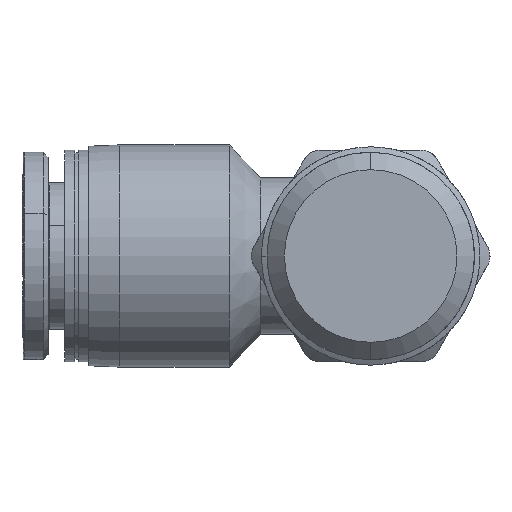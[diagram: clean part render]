
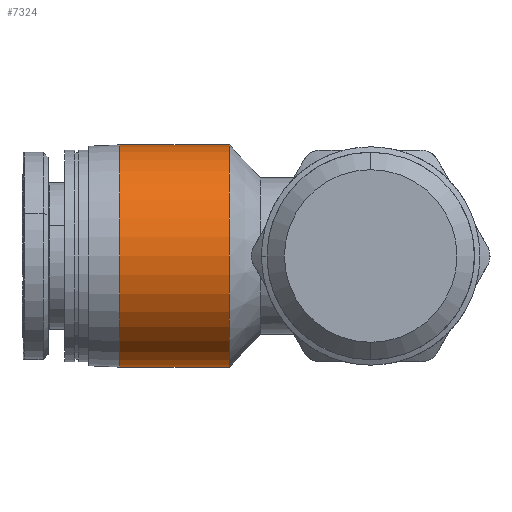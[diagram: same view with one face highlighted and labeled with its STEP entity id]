
A CAD part, front view. The second image highlights one B-rep face of the part: STEP entity #7324.
In plain terms, the highlighted cylindrical face has radius 8.926 mm (diameter 17.852 mm), a partial arc.
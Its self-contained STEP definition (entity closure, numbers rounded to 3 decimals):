
#2 = VERTEX_POINT ( 'NONE', #7611 ) ;
#188 = EDGE_CURVE ( 'NONE', #3949, #5086, #3103, .T. ) ;
#288 = DIRECTION ( 'NONE',  ( -1., 0., 0. ) ) ;
#398 = AXIS2_PLACEMENT_3D ( 'NONE', #7497, #4027, #2559 ) ;
#602 = CARTESIAN_POINT ( 'NONE',  ( 0., 0., 8.926 ) ) ;
#657 = CARTESIAN_POINT ( 'NONE',  ( -4.4, 0., 8.926 ) ) ;
#1246 = CYLINDRICAL_SURFACE ( 'NONE', #6630, 8.926 ) ;
#1296 = VECTOR ( 'NONE', #8048, 1000. ) ;
#2432 = ORIENTED_EDGE ( 'NONE', *, *, #188, .F. ) ;
#2473 = AXIS2_PLACEMENT_3D ( 'NONE', #7330, #288, #5917 ) ;
#2514 = LINE ( 'NONE', #657, #3609 ) ;
#2559 = DIRECTION ( 'NONE',  ( 0., 0., 1. ) ) ;
#2719 = CIRCLE ( 'NONE', #2473, 8.926 ) ;
#3103 = CIRCLE ( 'NONE', #398, 8.926 ) ;
#3509 = EDGE_CURVE ( 'NONE', #2, #3949, #7390, .T. ) ;
#3553 = ORIENTED_EDGE ( 'NONE', *, *, #5972, .T. ) ;
#3609 = VECTOR ( 'NONE', #7728, 1000. ) ;
#3949 = VERTEX_POINT ( 'NONE', #6415 ) ;
#4027 = DIRECTION ( 'NONE',  ( -1., 0., 0. ) ) ;
#4195 = DIRECTION ( 'NONE',  ( -1., 0., 0. ) ) ;
#4607 = CARTESIAN_POINT ( 'NONE',  ( 8.8, 0., 8.926 ) ) ;
#5086 = VERTEX_POINT ( 'NONE', #602 ) ;
#5661 = EDGE_CURVE ( 'NONE', #8071, #5086, #2514, .T. ) ;
#5917 = DIRECTION ( 'NONE',  ( 0., 0., 1. ) ) ;
#5972 = EDGE_CURVE ( 'NONE', #2, #8071, #2719, .T. ) ;
#6002 = EDGE_LOOP ( 'NONE', ( #8239, #3553, #6626, #2432 ) ) ;
#6051 = DIRECTION ( 'NONE',  ( 0., 0., 1. ) ) ;
#6415 = CARTESIAN_POINT ( 'NONE',  ( 0., 0., -8.926 ) ) ;
#6626 = ORIENTED_EDGE ( 'NONE', *, *, #5661, .T. ) ;
#6630 = AXIS2_PLACEMENT_3D ( 'NONE', #8386, #4195, #6051 ) ;
#7324 = ADVANCED_FACE ( 'NONE', ( #7753 ), #1246, .T. ) ;
#7330 = CARTESIAN_POINT ( 'NONE',  ( 8.8, 0., 0. ) ) ;
#7390 = LINE ( 'NONE', #8845, #1296 ) ;
#7497 = CARTESIAN_POINT ( 'NONE',  ( 0., 0., 0. ) ) ;
#7611 = CARTESIAN_POINT ( 'NONE',  ( 8.8, 0., -8.926 ) ) ;
#7728 = DIRECTION ( 'NONE',  ( -1., 0., 0. ) ) ;
#7753 = FACE_OUTER_BOUND ( 'NONE', #6002, .T. ) ;
#8048 = DIRECTION ( 'NONE',  ( -1., 0., 0. ) ) ;
#8071 = VERTEX_POINT ( 'NONE', #4607 ) ;
#8239 = ORIENTED_EDGE ( 'NONE', *, *, #3509, .F. ) ;
#8386 = CARTESIAN_POINT ( 'NONE',  ( -4.4, 0., 0. ) ) ;
#8845 = CARTESIAN_POINT ( 'NONE',  ( -4.4, 0., -8.926 ) ) ;
